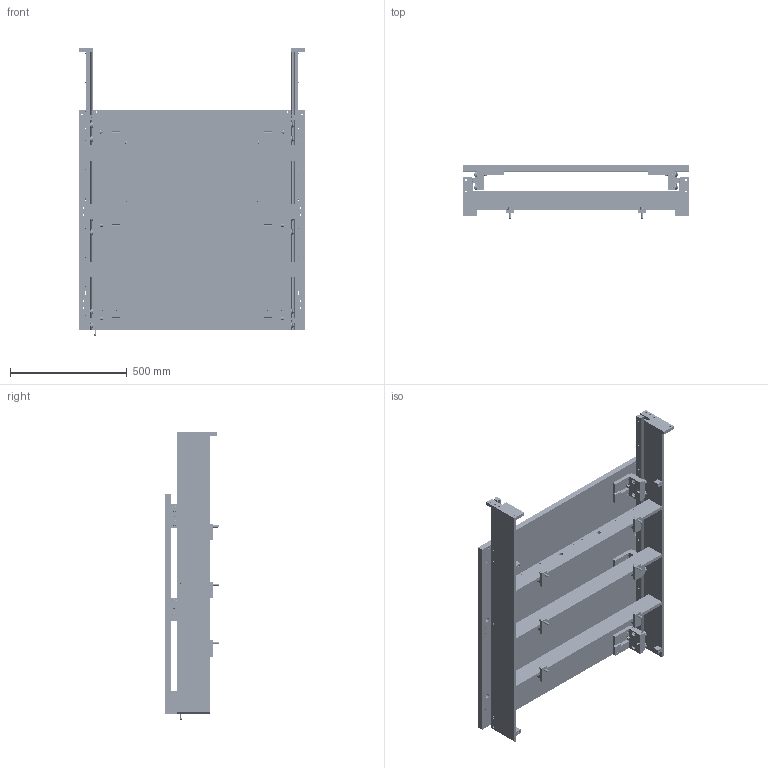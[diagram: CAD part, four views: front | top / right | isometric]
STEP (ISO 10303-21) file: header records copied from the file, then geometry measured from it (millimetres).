
FILE_DESCRIPTION(/* description */ (''),/* implementation_level */ '2;1');
FILE_NAME(/* name */ '191220_aass_ALL.stp',/* time_stamp */ '2019-12-20T16:32:54+01:00',/* author */ (''),/* organization */ (''),/* preprocessor_version */ 'ST-DEVELOPER v16.7',/* originating_system */ 'SIEMENS PLM Software NX 12.0',/* authorisation */ '');
FILE_SCHEMA (('AUTOMOTIVE_DESIGN { 1 0 10303 214 3 1 1 1 }'));
Products named in the file (1): bmas05B4E011lp5g
Bounding box: 968 x 228 x 1231 mm (x, y, z)
Volume: 35299172.3 mm3; surface area: 4733694.8 mm2
Topology: 591 solids, 591 shells, 6598 faces, 15561 edges, 9707 vertices
Faces by surface type: cylinder 2672, plane 2298, torus 747, sphere 448, cone 433
Full cylindrical faces by diameter (mm): 3 x4, 4.826 x1, 5 x52, 5.795 x20, 6.6 x4, 6.8 x110, 7.76 x48, 8 x4, 8.4 x48, 8.5 x5, 9 x48, 9.732 x6, 10 x20, 10.3 x4, 10.5 x6, 11 x6, 12 x4, 13 x48, 16 x6, 17 x48, 18 x2, 19 x22, 20 x24, 21 x6
Entity records: 232554 total; most frequent: CARTESIAN_POINT 48487, DIRECTION 33354, ORIENTED_EDGE 27112, AXIS2_PLACEMENT_3D 14095, EDGE_CURVE 13556, VERTEX_POINT 9516, EDGE_LOOP 8842, CIRCLE 7496
